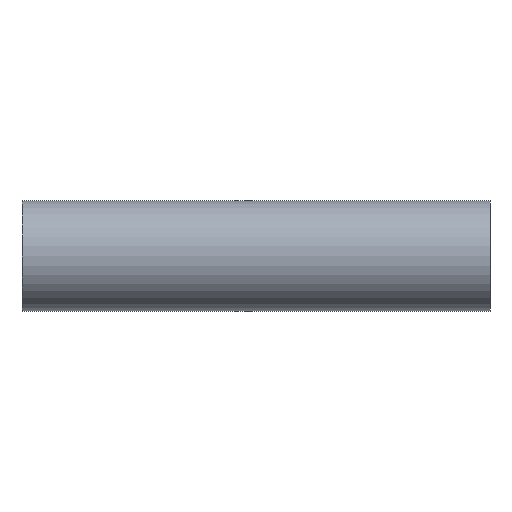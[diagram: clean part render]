
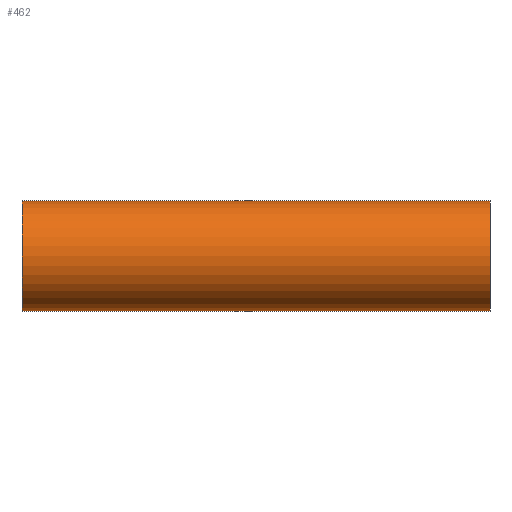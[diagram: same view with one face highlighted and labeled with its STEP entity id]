
A CAD part, front view. The second image highlights one B-rep face of the part: STEP entity #462.
In plain terms, the highlighted cylindrical face has radius 12.7 mm (diameter 25.4 mm), a partial arc.
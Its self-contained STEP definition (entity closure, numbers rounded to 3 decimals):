
#37 = ORIENTED_EDGE ( 'NONE', *, *, #944, .F. ) ;
#44 = DIRECTION ( 'NONE',  ( 0., 0., -1. ) ) ;
#65 = VERTEX_POINT ( 'NONE', #701 ) ;
#156 = CARTESIAN_POINT ( 'NONE',  ( -54., 0., 0. ) ) ;
#159 = CARTESIAN_POINT ( 'NONE',  ( -54., 0., -12.7 ) ) ;
#179 = AXIS2_PLACEMENT_3D ( 'NONE', #1147, #853, #594 ) ;
#220 = AXIS2_PLACEMENT_3D ( 'NONE', #156, #454, #44 ) ;
#238 = EDGE_CURVE ( 'NONE', #504, #813, #676, .T. ) ;
#302 = CARTESIAN_POINT ( 'NONE',  ( -54., 0., 12.7 ) ) ;
#318 = FACE_OUTER_BOUND ( 'NONE', #1150, .T. ) ;
#375 = ORIENTED_EDGE ( 'NONE', *, *, #1049, .T. ) ;
#397 = AXIS2_PLACEMENT_3D ( 'NONE', #1021, #1149, #736 ) ;
#454 = DIRECTION ( 'NONE',  ( 1., 0., 0. ) ) ;
#460 = CYLINDRICAL_SURFACE ( 'NONE', #179, 12.7 ) ;
#462 = ADVANCED_FACE ( 'NONE', ( #318 ), #460, .T. ) ;
#492 = CARTESIAN_POINT ( 'NONE',  ( -54., 0., -12.7 ) ) ;
#504 = VERTEX_POINT ( 'NONE', #159 ) ;
#508 = DIRECTION ( 'NONE',  ( 1., 0., 0. ) ) ;
#523 = CARTESIAN_POINT ( 'NONE',  ( 54., 0., -12.7 ) ) ;
#532 = CARTESIAN_POINT ( 'NONE',  ( -54., 0., 12.7 ) ) ;
#535 = CIRCLE ( 'NONE', #397, 12.7 ) ;
#594 = DIRECTION ( 'NONE',  ( 0., 0., -1. ) ) ;
#617 = VECTOR ( 'NONE', #508, 1000. ) ;
#629 = LINE ( 'NONE', #532, #617 ) ;
#676 = LINE ( 'NONE', #492, #1145 ) ;
#680 = VERTEX_POINT ( 'NONE', #302 ) ;
#701 = CARTESIAN_POINT ( 'NONE',  ( 54., 0., 12.7 ) ) ;
#736 = DIRECTION ( 'NONE',  ( 0., 0., -1. ) ) ;
#739 = EDGE_CURVE ( 'NONE', #680, #504, #1216, .T. ) ;
#813 = VERTEX_POINT ( 'NONE', #523 ) ;
#853 = DIRECTION ( 'NONE',  ( 1., 0., 0. ) ) ;
#902 = ORIENTED_EDGE ( 'NONE', *, *, #238, .T. ) ;
#944 = EDGE_CURVE ( 'NONE', #680, #65, #629, .T. ) ;
#1000 = ORIENTED_EDGE ( 'NONE', *, *, #739, .T. ) ;
#1021 = CARTESIAN_POINT ( 'NONE',  ( 54., 0., 0. ) ) ;
#1049 = EDGE_CURVE ( 'NONE', #813, #65, #535, .T. ) ;
#1130 = DIRECTION ( 'NONE',  ( 1., 0., 0. ) ) ;
#1145 = VECTOR ( 'NONE', #1130, 1000. ) ;
#1147 = CARTESIAN_POINT ( 'NONE',  ( -54., 0., 0. ) ) ;
#1149 = DIRECTION ( 'NONE',  ( -1., 0., 0. ) ) ;
#1150 = EDGE_LOOP ( 'NONE', ( #37, #1000, #902, #375 ) ) ;
#1216 = CIRCLE ( 'NONE', #220, 12.7 ) ;
